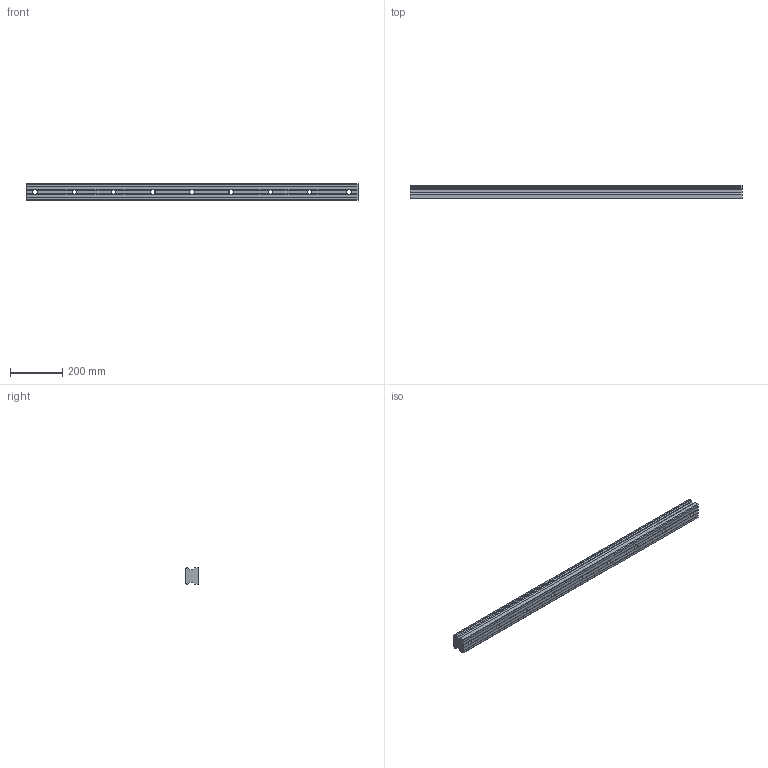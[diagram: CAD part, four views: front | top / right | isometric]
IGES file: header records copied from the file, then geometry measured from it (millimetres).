
Start section: Data from Parasolid IGES Translator 26.0.171, Copyright(c) 2006 Siemens PLM Software. All Rights Reserved.
Global section: file name: SHS65-1270L(GK) RAIL(35).igs; native system: By Siemens PLM Incorporated; preprocessor: XPlus GENERIC/IGES 26.0.171; author: Noname; organization: Noname; date: 20240514.034317; units: millimetre
Bounding box: 1270 x 53 x 63 mm (x, y, z)
Surface area: 334630.7 mm2 (no closed solid volume)
Topology: 0 solids, 0 shells, 108 faces, 636 edges, 609 vertices
Faces by surface type: extrusion 66, revolution 42
